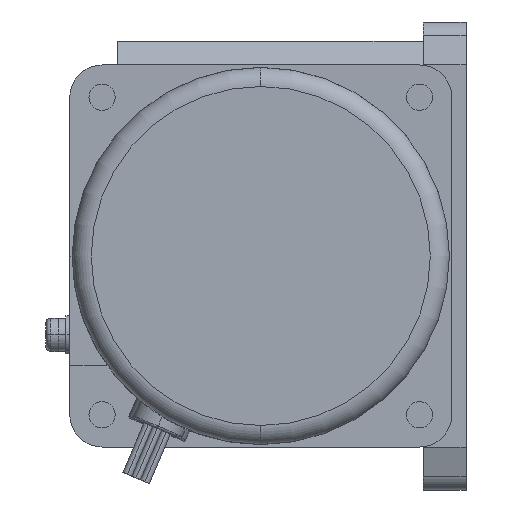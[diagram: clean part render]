
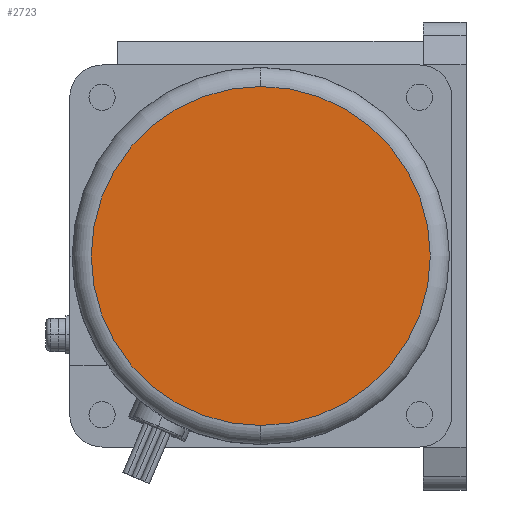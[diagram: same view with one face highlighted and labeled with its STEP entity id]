
A CAD part, left-side view. The second image highlights one B-rep face of the part: STEP entity #2723.
In plain terms, the highlighted planar face has unit normal (-1, 0, 0).
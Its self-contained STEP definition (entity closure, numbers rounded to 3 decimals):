
#2703=CARTESIAN_POINT('POINT658512',(-191.,43.,20.5));
#2704=VERTEX_POINT('VERTEX658512',#2703);
#2705=CARTESIAN_POINT('POINT658513',(-191.,43.,-50.5));
#2706=VERTEX_POINT('VERTEX658513',#2705);
#2707=CARTESIAN_POINT('POS1084753',(-191.,43.,-15.));
#2708=DIRECTION('DIR1623937',(-1.,0.,0.));
#2709=DIRECTION('DIR1623938',(0.,0.,-1.));
#2710=AXIS2_PLACEMENT_3D('AXIS539185',#2707,#2708,#2709);
#2711=CIRCLE('ELLIPSE243262',#2710,35.5);
#2712=EDGE_CURVE('EDGE1011976',#2704,#2706,#2711,.T.);
#2713=ORIENTED_EDGE('COEDGE2024633',*,*,#2712,.T.);
#2714=EDGE_CURVE('EDGE1011977',#2706,#2704,#2711,.T.);
#2715=ORIENTED_EDGE('COEDGE2024634',*,*,#2714,.T.);
#2716=EDGE_LOOP('NONE',(#2713,#2715));
#2717=FACE_BOUND('LOOP1',#2716,.T.);
#2718=CARTESIAN_POINT('POS1084754',(-191.,43.,-34.745));
#2719=DIRECTION('DIR1623939',(-1.,0.,0.));
#2720=DIRECTION('DIR1623940',(0.,1.,0.));
#2721=AXIS2_PLACEMENT_3D('AXIS539186',#2718,#2719,#2720);
#2722=PLANE('PLANE186717',#2721);
#2723=ADVANCED_FACE('FACE413048',(#2717),#2722,.T.);
